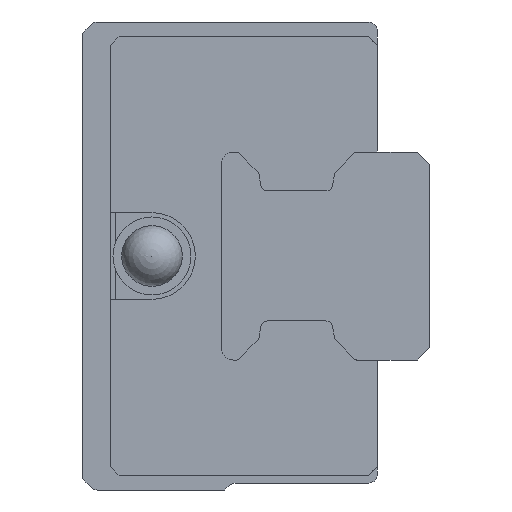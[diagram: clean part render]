
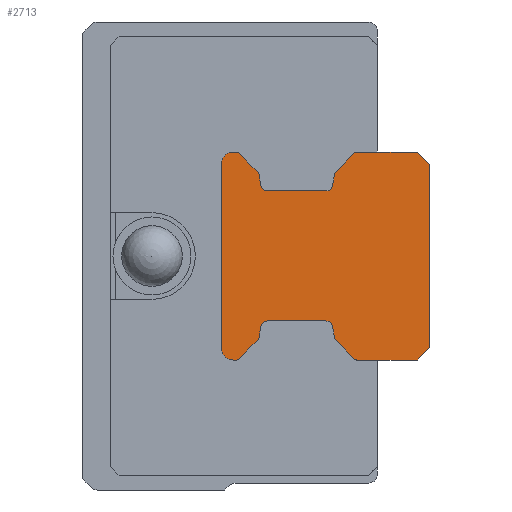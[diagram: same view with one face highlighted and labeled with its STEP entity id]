
A CAD part, left-side view. The second image highlights one B-rep face of the part: STEP entity #2713.
In plain terms, the highlighted planar face has unit normal (-1, 0, 0).
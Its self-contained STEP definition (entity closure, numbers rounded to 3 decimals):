
#43=CIRCLE('',#2872,0.15);
#45=CIRCLE('',#2876,0.15);
#47=CIRCLE('',#2880,0.4);
#49=CIRCLE('',#2884,0.4);
#51=CIRCLE('',#2888,0.15);
#53=CIRCLE('',#2892,0.15);
#60=CIRCLE('',#2905,0.15);
#62=CIRCLE('',#2909,0.15);
#64=CIRCLE('',#2913,0.4);
#66=CIRCLE('',#2917,0.4);
#68=CIRCLE('',#2921,0.15);
#70=CIRCLE('',#2925,0.15);
#72=CIRCLE('',#2929,0.7);
#79=CIRCLE('',#2938,0.7);
#371=ORIENTED_EDGE('',*,*,#975,.F.);
#372=ORIENTED_EDGE('',*,*,#1079,.F.);
#373=ORIENTED_EDGE('',*,*,#1076,.F.);
#374=ORIENTED_EDGE('',*,*,#1068,.F.);
#375=ORIENTED_EDGE('',*,*,#1065,.F.);
#376=ORIENTED_EDGE('',*,*,#1062,.F.);
#377=ORIENTED_EDGE('',*,*,#1059,.F.);
#378=ORIENTED_EDGE('',*,*,#1056,.F.);
#379=ORIENTED_EDGE('',*,*,#1053,.F.);
#380=ORIENTED_EDGE('',*,*,#1050,.T.);
#381=ORIENTED_EDGE('',*,*,#1047,.F.);
#382=ORIENTED_EDGE('',*,*,#1044,.T.);
#383=ORIENTED_EDGE('',*,*,#1041,.F.);
#384=ORIENTED_EDGE('',*,*,#1038,.F.);
#385=ORIENTED_EDGE('',*,*,#1035,.F.);
#386=ORIENTED_EDGE('',*,*,#1032,.F.);
#387=ORIENTED_EDGE('',*,*,#1029,.F.);
#388=ORIENTED_EDGE('',*,*,#1026,.F.);
#389=ORIENTED_EDGE('',*,*,#1023,.F.);
#390=ORIENTED_EDGE('',*,*,#1015,.F.);
#391=ORIENTED_EDGE('',*,*,#1012,.F.);
#392=ORIENTED_EDGE('',*,*,#1009,.F.);
#393=ORIENTED_EDGE('',*,*,#1006,.F.);
#394=ORIENTED_EDGE('',*,*,#1003,.F.);
#395=ORIENTED_EDGE('',*,*,#1000,.F.);
#396=ORIENTED_EDGE('',*,*,#997,.T.);
#397=ORIENTED_EDGE('',*,*,#994,.F.);
#398=ORIENTED_EDGE('',*,*,#991,.T.);
#399=ORIENTED_EDGE('',*,*,#988,.F.);
#400=ORIENTED_EDGE('',*,*,#985,.F.);
#401=ORIENTED_EDGE('',*,*,#982,.F.);
#402=ORIENTED_EDGE('',*,*,#979,.F.);
#975=EDGE_CURVE('',#1362,#1363,#1634,.T.);
#979=EDGE_CURVE('',#1363,#1366,#43,.T.);
#982=EDGE_CURVE('',#1366,#1368,#1639,.T.);
#985=EDGE_CURVE('',#1368,#1370,#45,.T.);
#988=EDGE_CURVE('',#1370,#1372,#1643,.T.);
#991=EDGE_CURVE('',#1374,#1372,#47,.T.);
#994=EDGE_CURVE('',#1374,#1376,#1647,.T.);
#997=EDGE_CURVE('',#1378,#1376,#49,.T.);
#1000=EDGE_CURVE('',#1378,#1380,#1651,.T.);
#1003=EDGE_CURVE('',#1380,#1382,#51,.T.);
#1006=EDGE_CURVE('',#1382,#1384,#1655,.T.);
#1009=EDGE_CURVE('',#1384,#1386,#53,.T.);
#1012=EDGE_CURVE('',#1386,#1388,#1659,.T.);
#1015=EDGE_CURVE('',#1388,#1390,#1662,.T.);
#1023=EDGE_CURVE('',#1390,#1397,#1665,.T.);
#1026=EDGE_CURVE('',#1397,#1399,#1668,.T.);
#1029=EDGE_CURVE('',#1399,#1401,#1671,.T.);
#1032=EDGE_CURVE('',#1401,#1403,#60,.T.);
#1035=EDGE_CURVE('',#1403,#1405,#1675,.T.);
#1038=EDGE_CURVE('',#1405,#1407,#62,.T.);
#1041=EDGE_CURVE('',#1407,#1409,#1679,.T.);
#1044=EDGE_CURVE('',#1411,#1409,#64,.T.);
#1047=EDGE_CURVE('',#1411,#1413,#1683,.T.);
#1050=EDGE_CURVE('',#1415,#1413,#66,.T.);
#1053=EDGE_CURVE('',#1415,#1417,#1687,.T.);
#1056=EDGE_CURVE('',#1417,#1419,#68,.T.);
#1059=EDGE_CURVE('',#1419,#1421,#1691,.T.);
#1062=EDGE_CURVE('',#1421,#1423,#70,.T.);
#1065=EDGE_CURVE('',#1423,#1425,#1695,.T.);
#1068=EDGE_CURVE('',#1425,#1427,#72,.T.);
#1076=EDGE_CURVE('',#1427,#1434,#1699,.T.);
#1079=EDGE_CURVE('',#1434,#1362,#79,.T.);
#1362=VERTEX_POINT('',#3942);
#1363=VERTEX_POINT('',#3943);
#1366=VERTEX_POINT('',#3951);
#1368=VERTEX_POINT('',#3957);
#1370=VERTEX_POINT('',#3963);
#1372=VERTEX_POINT('',#3969);
#1374=VERTEX_POINT('',#3975);
#1376=VERTEX_POINT('',#3981);
#1378=VERTEX_POINT('',#3987);
#1380=VERTEX_POINT('',#3993);
#1382=VERTEX_POINT('',#3999);
#1384=VERTEX_POINT('',#4005);
#1386=VERTEX_POINT('',#4011);
#1388=VERTEX_POINT('',#4017);
#1390=VERTEX_POINT('',#4023);
#1397=VERTEX_POINT('',#4039);
#1399=VERTEX_POINT('',#4045);
#1401=VERTEX_POINT('',#4051);
#1403=VERTEX_POINT('',#4057);
#1405=VERTEX_POINT('',#4063);
#1407=VERTEX_POINT('',#4069);
#1409=VERTEX_POINT('',#4075);
#1411=VERTEX_POINT('',#4081);
#1413=VERTEX_POINT('',#4087);
#1415=VERTEX_POINT('',#4093);
#1417=VERTEX_POINT('',#4099);
#1419=VERTEX_POINT('',#4105);
#1421=VERTEX_POINT('',#4111);
#1423=VERTEX_POINT('',#4117);
#1425=VERTEX_POINT('',#4123);
#1427=VERTEX_POINT('',#4129);
#1434=VERTEX_POINT('',#4145);
#1634=LINE('',#3941,#1915);
#1639=LINE('',#3956,#1920);
#1643=LINE('',#3968,#1924);
#1647=LINE('',#3980,#1928);
#1651=LINE('',#3992,#1932);
#1655=LINE('',#4004,#1936);
#1659=LINE('',#4016,#1940);
#1662=LINE('',#4022,#1943);
#1665=LINE('',#4038,#1946);
#1668=LINE('',#4044,#1949);
#1671=LINE('',#4050,#1952);
#1675=LINE('',#4062,#1956);
#1679=LINE('',#4074,#1960);
#1683=LINE('',#4086,#1964);
#1687=LINE('',#4098,#1968);
#1691=LINE('',#4110,#1972);
#1695=LINE('',#4122,#1976);
#1699=LINE('',#4144,#1980);
#1915=VECTOR('',#3136,1000.);
#1920=VECTOR('',#3149,1000.);
#1924=VECTOR('',#3161,1000.);
#1928=VECTOR('',#3173,1000.);
#1932=VECTOR('',#3185,1000.);
#1936=VECTOR('',#3197,1000.);
#1940=VECTOR('',#3209,1000.);
#1943=VECTOR('',#3214,1000.);
#1946=VECTOR('',#3229,1000.);
#1949=VECTOR('',#3234,1000.);
#1952=VECTOR('',#3239,1000.);
#1956=VECTOR('',#3251,1000.);
#1960=VECTOR('',#3263,1000.);
#1964=VECTOR('',#3275,1000.);
#1968=VECTOR('',#3287,1000.);
#1972=VECTOR('',#3299,1000.);
#1976=VECTOR('',#3311,1000.);
#1980=VECTOR('',#3333,1000.);
#2239=EDGE_LOOP('',(#371,#372,#373,#374,#375,#376,#377,#378,#379,#380,#381,
#382,#383,#384,#385,#386,#387,#388,#389,#390,#391,#392,#393,#394,#395,#396,
#397,#398,#399,#400,#401,#402));
#2432=FACE_BOUND('',#2239,.T.);
#2603=PLANE('',#2941);
#2713=ADVANCED_FACE('',(#2432),#2603,.F.);
#2872=AXIS2_PLACEMENT_3D('',#3950,#3142,#3143);
#2876=AXIS2_PLACEMENT_3D('',#3962,#3154,#3155);
#2880=AXIS2_PLACEMENT_3D('',#3974,#3166,#3167);
#2884=AXIS2_PLACEMENT_3D('',#3986,#3178,#3179);
#2888=AXIS2_PLACEMENT_3D('',#3998,#3190,#3191);
#2892=AXIS2_PLACEMENT_3D('',#4010,#3202,#3203);
#2905=AXIS2_PLACEMENT_3D('',#4056,#3244,#3245);
#2909=AXIS2_PLACEMENT_3D('',#4068,#3256,#3257);
#2913=AXIS2_PLACEMENT_3D('',#4080,#3268,#3269);
#2917=AXIS2_PLACEMENT_3D('',#4092,#3280,#3281);
#2921=AXIS2_PLACEMENT_3D('',#4104,#3292,#3293);
#2925=AXIS2_PLACEMENT_3D('',#4116,#3304,#3305);
#2929=AXIS2_PLACEMENT_3D('',#4128,#3316,#3317);
#2938=AXIS2_PLACEMENT_3D('',#4150,#3338,#3339);
#2941=AXIS2_PLACEMENT_3D('',#4153,#3344,#3345);
#3136=DIRECTION('',(0.,-1.,0.));
#3142=DIRECTION('',(1.,0.,0.));
#3143=DIRECTION('',(0.,0.,-1.));
#3149=DIRECTION('',(0.,-0.707,-0.707));
#3154=DIRECTION('',(1.,0.,0.));
#3155=DIRECTION('',(0.,0.,-1.));
#3161=DIRECTION('',(0.,-0.174,-0.985));
#3166=DIRECTION('',(1.,0.,0.));
#3167=DIRECTION('',(0.,0.,-1.));
#3173=DIRECTION('',(0.,-1.,0.));
#3178=DIRECTION('',(1.,0.,0.));
#3179=DIRECTION('',(0.,0.,-1.));
#3185=DIRECTION('',(0.,-0.174,0.985));
#3190=DIRECTION('',(1.,0.,0.));
#3191=DIRECTION('',(0.,0.,-1.));
#3197=DIRECTION('',(0.,-0.707,0.707));
#3202=DIRECTION('',(1.,0.,0.));
#3203=DIRECTION('',(0.,0.,-1.));
#3209=DIRECTION('',(0.,-1.,0.));
#3214=DIRECTION('',(0.,-0.707,-0.707));
#3229=DIRECTION('',(0.,0.,-1.));
#3234=DIRECTION('',(0.,0.707,-0.707));
#3239=DIRECTION('',(0.,1.,0.));
#3244=DIRECTION('',(1.,0.,0.));
#3245=DIRECTION('',(0.,0.,-1.));
#3251=DIRECTION('',(0.,0.707,0.707));
#3256=DIRECTION('',(1.,0.,0.));
#3257=DIRECTION('',(0.,0.,-1.));
#3263=DIRECTION('',(0.,0.174,0.985));
#3268=DIRECTION('',(1.,0.,0.));
#3269=DIRECTION('',(0.,0.,-1.));
#3275=DIRECTION('',(0.,1.,0.));
#3280=DIRECTION('',(1.,0.,0.));
#3281=DIRECTION('',(0.,0.,-1.));
#3287=DIRECTION('',(0.,0.174,-0.985));
#3292=DIRECTION('',(1.,0.,0.));
#3293=DIRECTION('',(0.,0.,-1.));
#3299=DIRECTION('',(0.,0.707,-0.707));
#3304=DIRECTION('',(1.,0.,0.));
#3305=DIRECTION('',(0.,0.,-1.));
#3311=DIRECTION('',(0.,1.,0.));
#3316=DIRECTION('',(1.,0.,0.));
#3317=DIRECTION('',(0.,0.,-1.));
#3333=DIRECTION('',(0.,0.,1.));
#3338=DIRECTION('',(1.,0.,0.));
#3339=DIRECTION('',(0.,0.,-1.));
#3344=DIRECTION('',(1.,0.,0.));
#3345=DIRECTION('',(0.,0.,-1.));
#3941=CARTESIAN_POINT('',(-10.,11.3,6.));
#3942=CARTESIAN_POINT('',(-10.,11.3,6.));
#3943=CARTESIAN_POINT('',(-10.,11.112,6.));
#3950=CARTESIAN_POINT('',(-10.,11.112,5.85));
#3951=CARTESIAN_POINT('',(-10.,11.006,5.956));
#3956=CARTESIAN_POINT('',(-10.,11.006,5.956));
#3957=CARTESIAN_POINT('',(-10.,9.878,4.828));
#3962=CARTESIAN_POINT('',(-10.,9.984,4.721));
#3963=CARTESIAN_POINT('',(-10.,9.836,4.748));
#3968=CARTESIAN_POINT('',(-10.,9.836,4.748));
#3969=CARTESIAN_POINT('',(-10.,9.718,4.081));
#3974=CARTESIAN_POINT('',(-10.,9.324,4.15));
#3975=CARTESIAN_POINT('',(-10.,9.324,3.75));
#3980=CARTESIAN_POINT('',(-10.,9.324,3.75));
#3981=CARTESIAN_POINT('',(-10.,5.976,3.75));
#3986=CARTESIAN_POINT('',(-10.,5.976,4.15));
#3987=CARTESIAN_POINT('',(-10.,5.582,4.081));
#3992=CARTESIAN_POINT('',(-10.,5.582,4.081));
#3993=CARTESIAN_POINT('',(-10.,5.464,4.748));
#3998=CARTESIAN_POINT('',(-10.,5.316,4.721));
#3999=CARTESIAN_POINT('',(-10.,5.422,4.828));
#4004=CARTESIAN_POINT('',(-10.,5.422,4.828));
#4005=CARTESIAN_POINT('',(-10.,4.294,5.956));
#4010=CARTESIAN_POINT('',(-10.,4.188,5.85));
#4011=CARTESIAN_POINT('',(-10.,4.188,6.));
#4016=CARTESIAN_POINT('',(-10.,4.188,6.));
#4017=CARTESIAN_POINT('',(-10.,0.7,6.));
#4022=CARTESIAN_POINT('',(-10.,0.7,6.));
#4023=CARTESIAN_POINT('',(-10.,0.,5.3));
#4038=CARTESIAN_POINT('',(-10.,0.,5.3));
#4039=CARTESIAN_POINT('',(-10.,0.,-5.3));
#4044=CARTESIAN_POINT('',(-10.,0.,-5.3));
#4045=CARTESIAN_POINT('',(-10.,0.7,-6.));
#4050=CARTESIAN_POINT('',(-10.,0.7,-6.));
#4051=CARTESIAN_POINT('',(-10.,4.188,-6.));
#4056=CARTESIAN_POINT('',(-10.,4.188,-5.85));
#4057=CARTESIAN_POINT('',(-10.,4.294,-5.956));
#4062=CARTESIAN_POINT('',(-10.,4.294,-5.956));
#4063=CARTESIAN_POINT('',(-10.,5.422,-4.828));
#4068=CARTESIAN_POINT('',(-10.,5.316,-4.721));
#4069=CARTESIAN_POINT('',(-10.,5.464,-4.748));
#4074=CARTESIAN_POINT('',(-10.,5.464,-4.748));
#4075=CARTESIAN_POINT('',(-10.,5.582,-4.081));
#4080=CARTESIAN_POINT('',(-10.,5.976,-4.15));
#4081=CARTESIAN_POINT('',(-10.,5.976,-3.75));
#4086=CARTESIAN_POINT('',(-10.,5.976,-3.75));
#4087=CARTESIAN_POINT('',(-10.,9.324,-3.75));
#4092=CARTESIAN_POINT('',(-10.,9.324,-4.15));
#4093=CARTESIAN_POINT('',(-10.,9.718,-4.081));
#4098=CARTESIAN_POINT('',(-10.,9.718,-4.081));
#4099=CARTESIAN_POINT('',(-10.,9.836,-4.748));
#4104=CARTESIAN_POINT('',(-10.,9.984,-4.721));
#4105=CARTESIAN_POINT('',(-10.,9.878,-4.828));
#4110=CARTESIAN_POINT('',(-10.,9.878,-4.828));
#4111=CARTESIAN_POINT('',(-10.,11.006,-5.956));
#4116=CARTESIAN_POINT('',(-10.,11.112,-5.85));
#4117=CARTESIAN_POINT('',(-10.,11.112,-6.));
#4122=CARTESIAN_POINT('',(-10.,11.112,-6.));
#4123=CARTESIAN_POINT('',(-10.,11.3,-6.));
#4128=CARTESIAN_POINT('',(-10.,11.3,-5.3));
#4129=CARTESIAN_POINT('',(-10.,12.,-5.3));
#4144=CARTESIAN_POINT('',(-10.,12.,-5.3));
#4145=CARTESIAN_POINT('',(-10.,12.,5.3));
#4150=CARTESIAN_POINT('',(-10.,11.3,5.3));
#4153=CARTESIAN_POINT('',(-10.,11.112,5.85));
